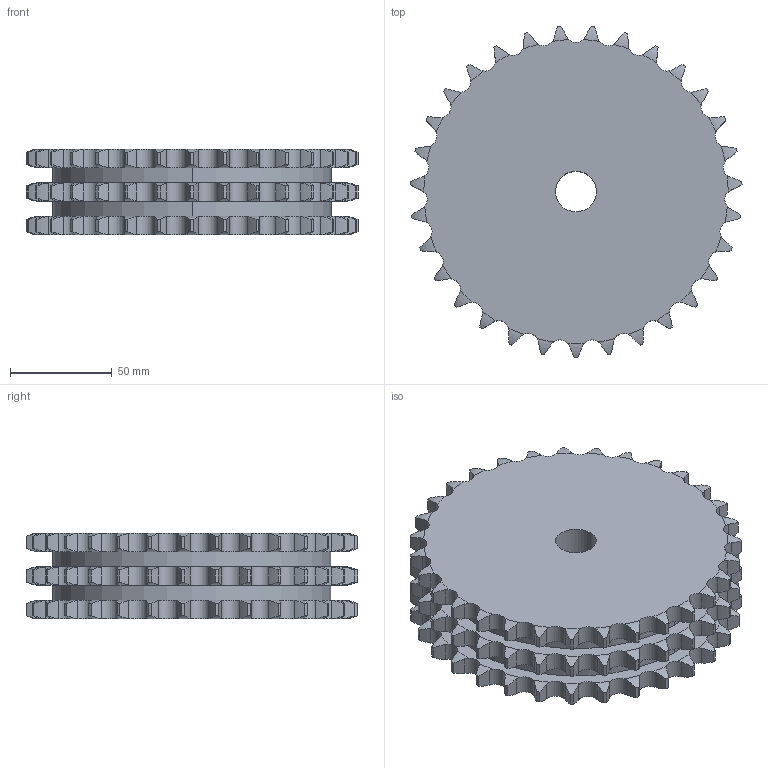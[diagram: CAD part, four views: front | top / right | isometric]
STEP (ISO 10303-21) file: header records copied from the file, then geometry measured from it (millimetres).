
FILE_DESCRIPTION((''),'2;1');
FILE_NAME('500-303-0031_PRT','2021-02-12T',('Brieden'),('Brieden'),'PRO/ENGINEER BY PARAMETRIC TECHNOLOGY CORPORATION, 2010160','PRO/ENGINEER BY PARAMETRIC TECHNOLOGY CORPORATION, 2010160','');
FILE_SCHEMA(('AUTOMOTIVE_DESIGN { 1 0 10303 214 1 1 1 1 }'));
Length unit declared in the file: millimetre
Products named in the file (1): 500-303-0031_PRT
Bounding box: 163.31 x 163.11 x 42.1 mm (x, y, z)
Volume: 704110.1 mm3; surface area: 78970.9 mm2
Topology: 1 solids, 1 shells, 570 faces, 1692 edges, 1128 vertices
Faces by surface type: cylinder 378, torus 186, plane 6
Entity records: 27666 total; most frequent: CARTESIAN_POINT 8151, ORIENTED_EDGE 3384, DIRECTION 2658, PRESENTATION_STYLE_ASSIGNMENT 1693, STYLED_ITEM 1693, CURVE_STYLE 1692, EDGE_CURVE 1692, AXIS2_PLACEMENT_3D 1140
